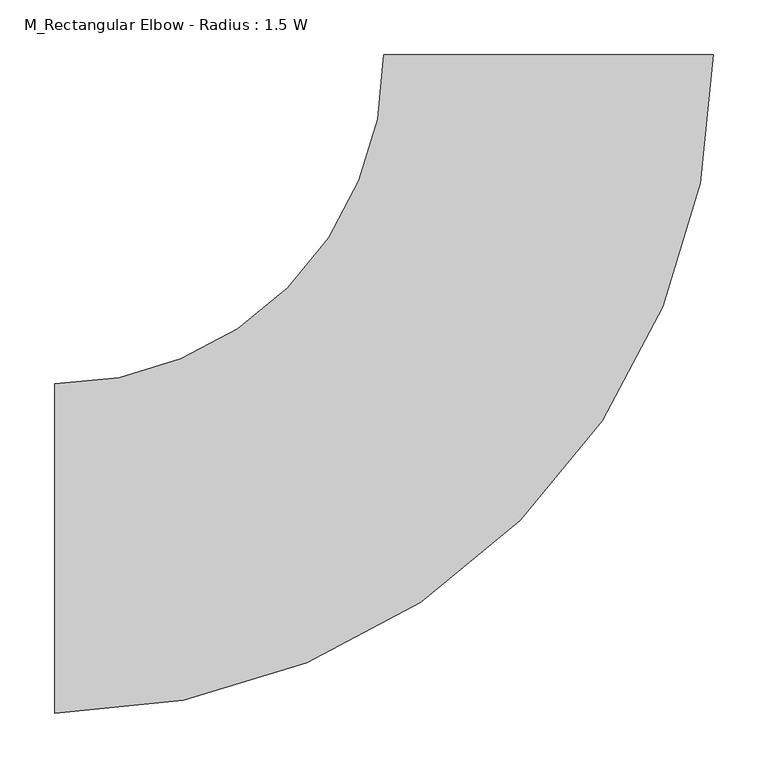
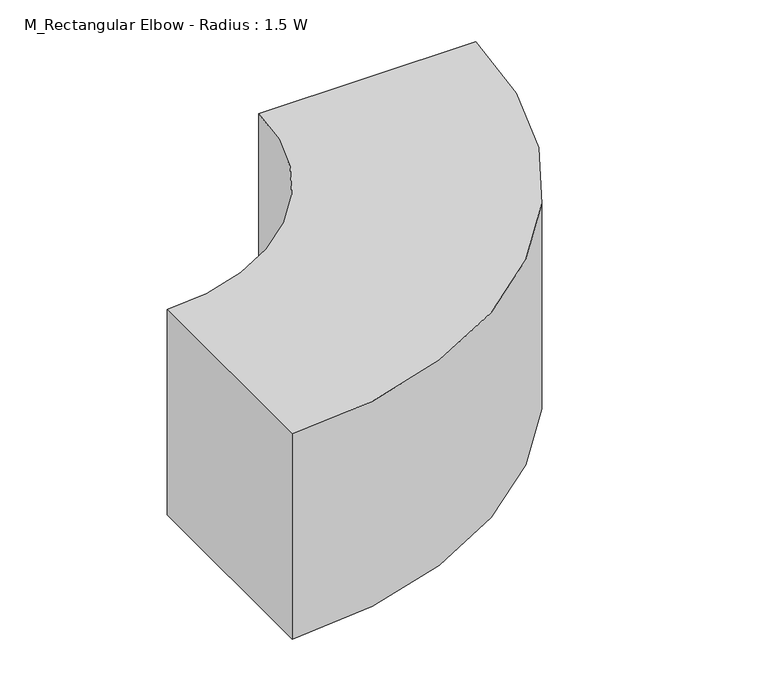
"""IFC4 building model written with IfcOpenShell, lengths in millimetres: duct fitting geometry, M_Rectangular Elbow - Radius : 1.5 W."""

from ifc_helpers import new_model, si_unit, point, frame, frame_2d, origin, place, context, project, spatial, polyline, circle_curve, trimmed, segment, composite_curve, outline, extrude, source, transform, mapped, element, save


def m_rectangular_elbow_radius_1_5_w_86011e9f(model_context):
    return source(origin(), model_context, "Body", "SweptSolid", [
        extrude(outline(composite_curve([segment(trimmed(circle_curve(frame_2d((-450.0, 450.0)), 600.0), [point((150.0, 450.0))], [point((-450.0, -150.0))], False, "CARTESIAN"), True, "CONTINUOUS"), segment(polyline([(-450.0, -150.0), (-450.0, 150.0)]), True, "CONTINUOUS"), segment(trimmed(circle_curve(frame_2d((-450.0, 450.0)), 300.0), [point((-450.0, 150.0))], [point((-150.0, 450.0))], True, "CARTESIAN"), True, "CONTINUOUS"), segment(polyline([(-150.0, 450.0), (150.0, 450.0)]), True, "CONTINUOUS")], self_intersect=False)), frame((0.0, 0.0, -150.0), z_axis=(0.0, 0.0, 1.0), x_axis=(1.0, 0.0, 0.0)), (0.0, 0.0, 1.0), 300.0),
        extrude(outline(composite_curve([segment(trimmed(circle_curve(frame_2d((-450.0, 450.0)), 600.0), [point((150.0, 450.0))], [point((-450.0, -150.0))], False, "CARTESIAN"), True, "CONTINUOUS"), segment(polyline([(-450.0, -150.0), (-450.0, 150.0)]), True, "CONTINUOUS"), segment(trimmed(circle_curve(frame_2d((-450.0, 450.0)), 300.0), [point((-450.0, 150.0))], [point((-150.0, 450.0))], True, "CARTESIAN"), True, "CONTINUOUS"), segment(polyline([(-150.0, 450.0), (150.0, 450.0)]), True, "CONTINUOUS")], self_intersect=False)), frame((0.0, 0.0, -150.0), z_axis=(0.0, 0.0, 1.0), x_axis=(1.0, 0.0, 0.0)), (0.0, 0.0, 1.0), 300.0),
        extrude(outline(composite_curve([segment(trimmed(circle_curve(frame_2d((-450.0, 450.0)), 600.0), [point((150.0, 450.0))], [point((-450.0, -150.0))], False, "CARTESIAN"), True, "CONTINUOUS"), segment(polyline([(-450.0, -150.0), (-450.0, 150.0)]), True, "CONTINUOUS"), segment(trimmed(circle_curve(frame_2d((-450.0, 450.0)), 300.0), [point((-450.0, 150.0))], [point((-150.0, 450.0))], True, "CARTESIAN"), True, "CONTINUOUS"), segment(polyline([(-150.0, 450.0), (150.0, 450.0)]), True, "CONTINUOUS")], self_intersect=False)), frame((0.0, 0.0, -150.0), z_axis=(0.0, 0.0, 1.0), x_axis=(1.0, 0.0, 0.0)), (0.0, 0.0, 1.0), 300.0),
    ])


if __name__ == "__main__":
    model = new_model("IFC4")
    model_context = context("Model", 3, world=origin())
    ifc_project = project(units=[si_unit("LENGTHUNIT", "METRE", prefix="MILLI")], contexts=[model_context])
    site = spatial("IfcSite", under=ifc_project)
    building = spatial("IfcBuilding", under=site)
    placement = place(None, origin())
    m_rectangular_elbow_radius_1_5_w_shape = m_rectangular_elbow_radius_1_5_w_86011e9f(model_context)
    element("IfcDuctFitting", 1, ObjectType="M_Rectangular Elbow - Radius : 1.5 W", at=placement, inside=building, context=model_context, shape_type="MappedRepresentation", body=[
        mapped(m_rectangular_elbow_radius_1_5_w_shape, transform((0.0, 0.0, 0.0), x_axis=(1.0, 0.0, 0.0), y_axis=(0.0, 1.0, 0.0), z_axis=(0.0, 0.0, 1.0))),
    ])
    save(model, "model.ifc")
